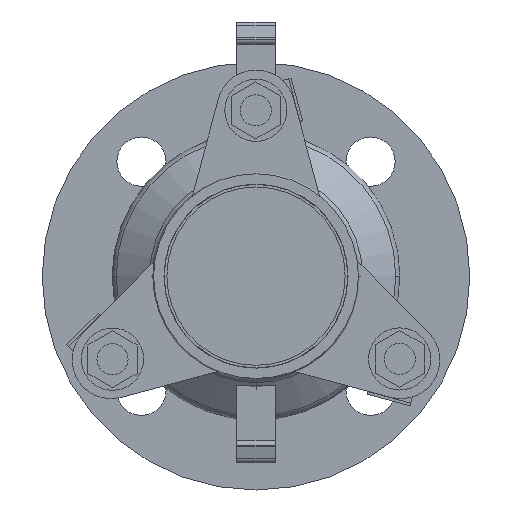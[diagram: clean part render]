
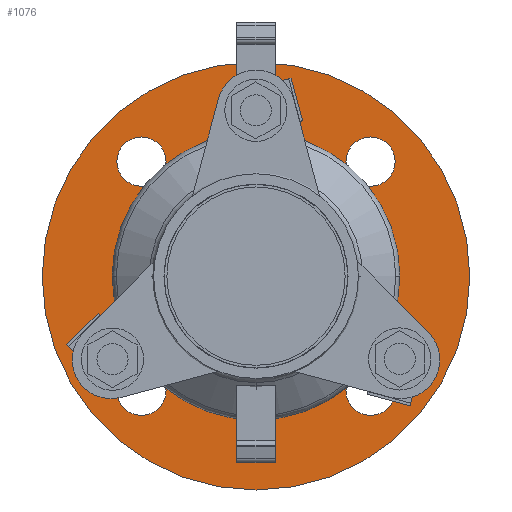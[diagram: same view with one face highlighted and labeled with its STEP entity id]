
A CAD part, left-side view. The second image highlights one B-rep face of the part: STEP entity #1076.
In plain terms, the highlighted planar face has unit normal (-1, 0, 0).
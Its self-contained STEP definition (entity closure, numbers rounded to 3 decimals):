
#1076=ADVANCED_FACE('',(#2056,#2057,#2058,#2059,#2060,#2061),#2062,.T.);
#2056=FACE_BOUND('',#3220,.T.);
#2057=FACE_BOUND('',#3221,.T.);
#2058=FACE_BOUND('',#3222,.T.);
#2059=FACE_BOUND('',#3223,.T.);
#2060=FACE_BOUND('',#3224,.T.);
#2061=FACE_OUTER_BOUND('',#3225,.T.);
#2062=PLANE('',#3226);
#3220=EDGE_LOOP('',(#5072,#5073));
#3221=EDGE_LOOP('',(#5074,#5075));
#3222=EDGE_LOOP('',(#5076,#5077));
#3223=EDGE_LOOP('',(#5078,#5079));
#3224=EDGE_LOOP('',(#5080,#5081));
#3225=EDGE_LOOP('',(#5082,#5083));
#3226=AXIS2_PLACEMENT_3D('',#5084,#5085,#5086);
#5072=ORIENTED_EDGE('',*,*,#6948,.T.);
#5073=ORIENTED_EDGE('',*,*,#6508,.T.);
#5074=ORIENTED_EDGE('',*,*,#6949,.T.);
#5075=ORIENTED_EDGE('',*,*,#6808,.T.);
#5076=ORIENTED_EDGE('',*,*,#6950,.T.);
#5077=ORIENTED_EDGE('',*,*,#6858,.T.);
#5078=ORIENTED_EDGE('',*,*,#6844,.T.);
#5079=ORIENTED_EDGE('',*,*,#6656,.T.);
#5080=ORIENTED_EDGE('',*,*,#6572,.T.);
#5081=ORIENTED_EDGE('',*,*,#6897,.T.);
#5082=ORIENTED_EDGE('',*,*,#6951,.F.);
#5083=ORIENTED_EDGE('',*,*,#6952,.F.);
#5084=CARTESIAN_POINT('',(-19.0,0.0,0.));
#5085=DIRECTION('',(-1.0,0.0,0.));
#5086=DIRECTION('',(0.,0.0,-1.0));
#6508=EDGE_CURVE('',#7718,#7715,#7719,.T.);
#6572=EDGE_CURVE('',#7814,#7819,#7821,.T.);
#6656=EDGE_CURVE('',#7949,#7946,#7950,.T.);
#6808=EDGE_CURVE('',#8178,#8175,#8179,.T.);
#6844=EDGE_CURVE('',#7946,#7949,#8222,.T.);
#6858=EDGE_CURVE('',#8243,#8240,#8244,.T.);
#6897=EDGE_CURVE('',#7819,#7814,#8295,.T.);
#6948=EDGE_CURVE('',#7715,#7718,#8364,.T.);
#6949=EDGE_CURVE('',#8175,#8178,#8365,.T.);
#6950=EDGE_CURVE('',#8240,#8243,#8366,.T.);
#6951=EDGE_CURVE('',#8367,#8368,#8369,.T.);
#6952=EDGE_CURVE('',#8368,#8367,#8370,.T.);
#7715=VERTEX_POINT('',#9313);
#7718=VERTEX_POINT('',#9317);
#7719=CIRCLE('',#9318,25.0);
#7814=VERTEX_POINT('',#9443);
#7819=VERTEX_POINT('',#9449);
#7821=CIRCLE('',#9452,9.5);
#7946=VERTEX_POINT('',#9613);
#7949=VERTEX_POINT('',#9617);
#7950=CIRCLE('',#9618,9.5);
#8175=VERTEX_POINT('',#9909);
#8178=VERTEX_POINT('',#9913);
#8179=CIRCLE('',#9914,9.5);
#8222=CIRCLE('',#9971,9.5);
#8240=VERTEX_POINT('',#9995);
#8243=VERTEX_POINT('',#9999);
#8244=CIRCLE('',#10000,9.5);
#8295=CIRCLE('',#10070,9.5);
#8364=CIRCLE('',#10160,25.0);
#8365=CIRCLE('',#10161,9.5);
#8366=CIRCLE('',#10162,9.5);
#8367=VERTEX_POINT('',#10163);
#8368=VERTEX_POINT('',#10164);
#8369=CIRCLE('',#10165,82.5);
#8370=CIRCLE('',#10166,82.5);
#9313=CARTESIAN_POINT('',(-19.0,0.0,-25.0));
#9317=CARTESIAN_POINT('',(-19.0,0.,25.0));
#9318=AXIS2_PLACEMENT_3D('',#10918,#10919,#10920);
#9443=CARTESIAN_POINT('',(-19.0,44.194,-53.694));
#9449=CARTESIAN_POINT('',(-19.0,44.194,-34.694));
#9452=AXIS2_PLACEMENT_3D('',#11001,#11002,#11003);
#9613=CARTESIAN_POINT('',(-19.0,44.194,34.694));
#9617=CARTESIAN_POINT('',(-19.0,44.194,53.694));
#9618=AXIS2_PLACEMENT_3D('',#11113,#11114,#11115);
#9909=CARTESIAN_POINT('',(-19.0,-44.194,-53.694));
#9913=CARTESIAN_POINT('',(-19.0,-44.194,-34.694));
#9914=AXIS2_PLACEMENT_3D('',#11309,#11310,#11311);
#9971=AXIS2_PLACEMENT_3D('',#11353,#11354,#11355);
#9995=CARTESIAN_POINT('',(-19.0,-44.194,34.694));
#9999=CARTESIAN_POINT('',(-19.0,-44.194,53.694));
#10000=AXIS2_PLACEMENT_3D('',#11369,#11370,#11371);
#10070=AXIS2_PLACEMENT_3D('',#11409,#11410,#11411);
#10160=AXIS2_PLACEMENT_3D('',#11475,#11476,#11477);
#10161=AXIS2_PLACEMENT_3D('',#11478,#11479,#11480);
#10162=AXIS2_PLACEMENT_3D('',#11481,#11482,#11483);
#10163=CARTESIAN_POINT('',(-19.0,0.0,-82.5));
#10164=CARTESIAN_POINT('',(-19.0,0.,82.5));
#10165=AXIS2_PLACEMENT_3D('',#11484,#11485,#11486);
#10166=AXIS2_PLACEMENT_3D('',#11487,#11488,#11489);
#10918=CARTESIAN_POINT('',(-19.0,0.0,0.));
#10919=DIRECTION('',(1.0,0.0,0.));
#10920=DIRECTION('',(0.,0.0,-1.0));
#11001=CARTESIAN_POINT('',(-19.0,44.194,-44.194));
#11002=DIRECTION('',(1.0,0.0,0.));
#11003=DIRECTION('',(0.,0.0,-1.0));
#11113=CARTESIAN_POINT('',(-19.0,44.194,44.194));
#11114=DIRECTION('',(1.0,0.0,0.));
#11115=DIRECTION('',(0.,0.0,-1.0));
#11309=CARTESIAN_POINT('',(-19.0,-44.194,-44.194));
#11310=DIRECTION('',(1.0,0.0,0.));
#11311=DIRECTION('',(0.,0.0,-1.0));
#11353=CARTESIAN_POINT('',(-19.0,44.194,44.194));
#11354=DIRECTION('',(1.0,0.0,0.));
#11355=DIRECTION('',(0.,0.0,-1.0));
#11369=CARTESIAN_POINT('',(-19.0,-44.194,44.194));
#11370=DIRECTION('',(1.0,0.0,0.));
#11371=DIRECTION('',(0.,0.0,-1.0));
#11409=CARTESIAN_POINT('',(-19.0,44.194,-44.194));
#11410=DIRECTION('',(1.0,0.0,0.));
#11411=DIRECTION('',(0.,0.0,-1.0));
#11475=CARTESIAN_POINT('',(-19.0,0.0,0.));
#11476=DIRECTION('',(1.0,0.0,0.));
#11477=DIRECTION('',(0.,0.0,-1.0));
#11478=CARTESIAN_POINT('',(-19.0,-44.194,-44.194));
#11479=DIRECTION('',(1.0,0.0,0.));
#11480=DIRECTION('',(0.,0.0,-1.0));
#11481=CARTESIAN_POINT('',(-19.0,-44.194,44.194));
#11482=DIRECTION('',(1.0,0.0,0.));
#11483=DIRECTION('',(0.,0.0,-1.0));
#11484=CARTESIAN_POINT('',(-19.0,0.0,0.));
#11485=DIRECTION('',(1.0,0.0,0.));
#11486=DIRECTION('',(0.,0.0,-1.0));
#11487=CARTESIAN_POINT('',(-19.0,0.0,0.));
#11488=DIRECTION('',(1.0,0.0,0.));
#11489=DIRECTION('',(0.,0.0,-1.0));
